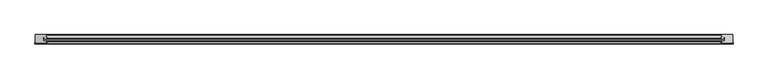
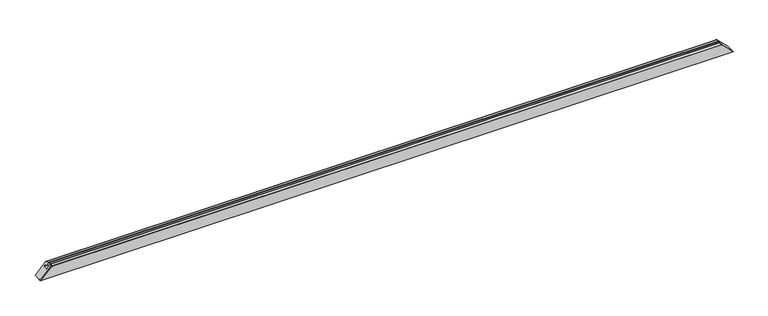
"""IFC4 building model written with IfcOpenShell, lengths in millimetres: proxy geometry, Weiku - Montante - Caixilho fixo 02.2.01.005 : Weiku - Montante - Caixilho fixo 02.2.01.005."""

import ifcopenshell
import ifcopenshell.guid

model = None  # the IFC model being written
_history = None  # IfcOwnerHistory: only IFC2X3 demands one
_inside = {}  # id of a spatial element -> (the spatial element, [elements in it])
_under = {}  # id of a project, library or spatial element -> (it, [spatial elements below it])
_declared = {}  # id of a project -> (the project, [libraries it declares])
_typed = {}  # id of a type object -> (the type object, [elements of that type])
_made_of = {}  # id of a material, layer set ... -> (it, [elements and type objects made of it])


def new_model(schema):
    """Start an empty IFC model of exactly this schema.

    Asked for "IFC4X3", IfcOpenShell would pick the latest addendum, in which some entities
    have other attributes; the version numbers below select the first issue.
    IFC2X3 requires an IfcOwnerHistory on every rooted entity: one is made here for all.
    """
    global model, _history
    if schema == "IFC4X3":
        model = ifcopenshell.file(schema_version=(4, 3, 0, 0))
    else:
        model = ifcopenshell.file(schema=schema)
    _inside.clear()
    _under.clear()
    _declared.clear()
    _typed.clear()
    _made_of.clear()
    _history = None
    if model.schema == "IFC2X3":
        org = make("IfcOrganization", Name="unknown")
        user = make(
            "IfcPersonAndOrganization",
            ThePerson=make("IfcPerson", FamilyName="unknown"),
            TheOrganization=org,
        )
        app = make(
            "IfcApplication",
            ApplicationDeveloper=org,
            Version="unknown",
            ApplicationFullName="unknown",
            ApplicationIdentifier="unknown",
        )
        _history = make(
            "IfcOwnerHistory",
            OwningUser=user,
            OwningApplication=app,
            ChangeAction="ADDED",
            CreationDate=0,
        )
    return model


def make(cls, **values):
    """One entity of the class cls with the attributes given. An attribute that is None is left unset."""
    return model.create_entity(
        cls, **{name: value for name, value in values.items() if value is not None}
    )


def rooted(cls, **values):
    """An entity with a GlobalId (a new one), such as an element, a storey or a relation."""
    return make(cls, GlobalId=ifcopenshell.guid.new(), OwnerHistory=_history, **values)


def si_unit(unit_type, name, prefix=None):
    """IfcSIUnit, for example si_unit("LENGTHUNIT", "METRE", prefix="MILLI")."""
    return make("IfcSIUnit", UnitType=unit_type, Prefix=prefix, Name=name)


def assignment(units):
    """IfcUnitAssignment: the units of a project."""
    return None if units is None else make("IfcUnitAssignment", Units=units)


def point(xyz):
    """IfcCartesianPoint."""
    return None if xyz is None else make("IfcCartesianPoint", Coordinates=xyz)


def direction(xyz):
    """IfcDirection."""
    return None if xyz is None else make("IfcDirection", DirectionRatios=xyz)


def frame(location, z_axis=None, x_axis=None):
    """IfcAxis2Placement3D, a coordinate frame: its origin and axes. An axis left out is left unset."""
    return make(
        "IfcAxis2Placement3D",
        Location=point(location),
        Axis=direction(z_axis),
        RefDirection=direction(x_axis),
    )


def origin():
    """The frame at (0, 0, 0) with its axes left unset."""
    return frame((0.0, 0.0, 0.0))


def place(relative_to, where):
    """IfcLocalPlacement: puts the frame where relative to a parent placement (None: the world)."""
    return make(
        "IfcLocalPlacement", PlacementRelTo=relative_to, RelativePlacement=where
    )


def context(
    kind, dimensions, precision=None, world=None, true_north=None, identifier=None
):
    """IfcGeometricRepresentationContext, for example the 3D "Model" context."""
    return make(
        "IfcGeometricRepresentationContext",
        ContextIdentifier=identifier,
        ContextType=kind,
        CoordinateSpaceDimension=dimensions,
        Precision=precision,
        WorldCoordinateSystem=world,
        TrueNorth=true_north,
    )


def project(units=None, contexts=None):
    """IfcProject with its units and contexts."""
    return rooted(
        "IfcProject",
        Name="project",
        RepresentationContexts=contexts,
        UnitsInContext=assignment(units),
    )


def spatial(cls, under=None, at=None, **own):
    """A site, building, storey or space (cls), placed at a placement, below another one or the project."""
    s = rooted(cls, ObjectPlacement=at, **own)
    if under is not None:
        _under.setdefault(under.id(), (under, []))[1].append(s)
    return s


def polyline(points):
    """IfcPolyline through the points."""
    return make("IfcPolyline", Points=[point(p) for p in points])


def ellipse_curve(where, semi_axis1, semi_axis2):
    """IfcEllipse in the frame where."""
    return make(
        "IfcEllipse", Position=where, SemiAxis1=semi_axis1, SemiAxis2=semi_axis2
    )


def shape(context_of_items, identifier, shape_type, items):
    """IfcShapeRepresentation: the items that make up one representation, for example the "Body"."""
    return make(
        "IfcShapeRepresentation",
        ContextOfItems=context_of_items,
        RepresentationIdentifier=identifier,
        RepresentationType=shape_type,
        Items=items,
    )


def source(mapping_origin, context_of_items, identifier, shape_type, items):
    """IfcRepresentationMap: a shape defined once, which mapped items show again and again."""
    return make(
        "IfcRepresentationMap",
        MappingOrigin=mapping_origin,
        MappedRepresentation=shape(context_of_items, identifier, shape_type, items),
    )


def transform(
    local_origin,
    x_axis=None,
    y_axis=None,
    z_axis=None,
    scale=None,
    scale2=None,
    scale3=None,
    uniform=True,
):
    """IfcCartesianTransformationOperator3D, or its non-uniform kind. x_axis, y_axis, z_axis: its Axis1, 2, 3."""
    if uniform:
        return make(
            "IfcCartesianTransformationOperator3D",
            Axis1=direction(x_axis),
            Axis2=direction(y_axis),
            LocalOrigin=point(local_origin),
            Scale=scale,
            Axis3=direction(z_axis),
        )
    return make(
        "IfcCartesianTransformationOperator3DnonUniform",
        Axis1=direction(x_axis),
        Axis2=direction(y_axis),
        LocalOrigin=point(local_origin),
        Scale=scale,
        Axis3=direction(z_axis),
        Scale2=scale2,
        Scale3=scale3,
    )


def mapped(mapping_source, mapping_target):
    """IfcMappedItem: shows the shape of a source again, moved by a transform."""
    return make(
        "IfcMappedItem", MappingSource=mapping_source, MappingTarget=mapping_target
    )


def made_of(thing, what):
    """Note that an element or type object is made of a material, layer set ...; save() writes the relation."""
    if what is not None:
        _made_of.setdefault(what.id(), (what, []))[1].append(thing)
    return thing


def element(
    cls,
    number,
    at=None,
    inside=None,
    cuts=None,
    type_object=None,
    material=None,
    context=None,
    identifier="Body",
    shape_type=None,
    held_by="IfcProductDefinitionShape",
    body=None,
    shapes=None,
    **own,
):
    """One element of the class cls, such as IfcWall. Its Tag is "e" and its number.

    at: its placement. inside: the storey or other place that contains it. cuts: it is an
    opening in that element (IfcRelVoidsElement). A single representation is given by context,
    identifier, shape_type and body (its items); several are given by shapes. held_by: the class
    of the entity that holds the representations. save() writes the other relations.
    """
    e = rooted(cls, Tag="e%d" % number, ObjectPlacement=at, **own)
    if body is not None:
        shapes = [shape(context, identifier, shape_type, body)]
    if shapes is not None:
        e.Representation = make(held_by, Representations=shapes)
    if inside is not None:
        _inside.setdefault(inside.id(), (inside, []))[1].append(e)
    if cuts is not None:
        rooted(
            "IfcRelVoidsElement", RelatingBuildingElement=cuts, RelatedOpeningElement=e
        )
    if type_object is not None:
        _typed.setdefault(type_object.id(), (type_object, []))[1].append(e)
    return made_of(e, material)


def aggregate(whole, parts):
    """IfcRelAggregates: a whole, such as a stair, and the parts it consists of."""
    return rooted("IfcRelAggregates", RelatingObject=whole, RelatedObjects=parts)


def save(model, path):
    """Write the relations noted so far, then the file.

    IfcRelAggregates (storeys below a building ...), IfcRelContainedInSpatialStructure (elements
    in a storey), IfcRelDefinesByType, IfcRelAssociatesMaterial and IfcRelDeclares: one each for
    every whole, place, type object, material and project.
    """
    for whole, parts in _under.values():
        aggregate(whole, parts)
    for where, things in _inside.values():
        rooted(
            "IfcRelContainedInSpatialStructure",
            RelatedElements=things,
            RelatingStructure=where,
        )
    for kind, things in _typed.values():
        rooted("IfcRelDefinesByType", RelatedObjects=things, RelatingType=kind)
    for what, things in _made_of.values():
        rooted("IfcRelAssociatesMaterial", RelatedObjects=things, RelatingMaterial=what)
    for by, libraries in _declared.values():
        rooted("IfcRelDeclares", RelatingContext=by, RelatedDefinitions=libraries)
    model.write(path)


def plane_surface(at):
    """IfcPlane: the flat surface through the origin of the frame at, square to its z axis."""
    return make("IfcPlane", Position=at)


def cylinder_surface(at, radius):
    """IfcCylindricalSurface: all points at the distance radius from the z axis of the frame at."""
    return make("IfcCylindricalSurface", Position=at, Radius=radius)


def revolved_surface(curve, axis_point, axis_direction):
    """IfcSurfaceOfRevolution: the curve turned about the line through axis_point along axis_direction."""
    return make(
        "IfcSurfaceOfRevolution",
        SweptCurve=make("IfcArbitraryOpenProfileDef", ProfileType="CURVE", Curve=curve),
        AxisPosition=make("IfcAxis1Placement", Location=point(axis_point), Axis=direction(axis_direction)),
    )


def advanced_brep(points, edges, surfaces, faces):
    """IfcAdvancedBrep: a solid bounded by faces that lie on surfaces and meet in shared edges.

    An edge is (start, end): straight between two places in points (the first is 0);
    or (start, end, curve); or (start, end, curve, False) where it runs against its curve.
    A face is (place in surfaces, loops), or (place, loops, False) where it looks against
    its surface's normal. A loop lists edges by number (the first is 1), with a minus sign
    where the edge is run from its end to its start. The first loop is the outer one.
    """
    corners = [point(p) for p in points]
    vertices = [make("IfcVertexPoint", VertexGeometry=c) for c in corners]
    made = []
    for start, end, *more in edges:
        made.append(
            make(
                "IfcEdgeCurve",
                EdgeStart=vertices[start],
                EdgeEnd=vertices[end],
                EdgeGeometry=more[0] if more else make("IfcPolyline", Points=[corners[start], corners[end]]),
                SameSense=more[1] if len(more) > 1 else True,
            )
        )
    hull = []
    for where, loops, *sense in faces:
        bounds = []
        for j, loop in enumerate(loops):
            ring = [make("IfcOrientedEdge", EdgeElement=made[abs(k) - 1], Orientation=k > 0) for k in loop]
            bounds.append(
                make(
                    "IfcFaceOuterBound" if j == 0 else "IfcFaceBound",
                    Bound=make("IfcEdgeLoop", EdgeList=ring),
                    Orientation=True,
                )
            )
        hull.append(make("IfcAdvancedFace", Bounds=bounds, FaceSurface=surfaces[where], SameSense=sense[0] if sense else True))
    return make("IfcAdvancedBrep", Outer=make("IfcClosedShell", CfsFaces=hull))


def generic_models_34b34451(model_context):
    return source(origin(), model_context, "Body", "AdvancedBrep", [
        advanced_brep(
        [(1998.0, -43.5137905, -1.0), (1997.0, -43.5137905, 0.0), (1997.0, -50.0, 0.0), (1935.4997332, -50.0, 61.5002668), (1932.6019557, -47.7764571, 64.3980443), (1930.118227, -38.5070552, 66.881773), (1930.8909676, -37.5, 66.1090324), (1930.8909676, -35.5, 66.1090324), (1928.1863753, -39.0246933, 68.8136247), (1932.0003978, -53.258819, 64.9996022), (1932.9663236, -54.0, 64.0336764), (1998.0, -54.0, -1.0), (-1998.0, -54.0, -1.0), (-1932.9663236, -54.0, 64.0336764), (-1932.0003978, -53.258819, 64.9996022), (-1928.1863753, -39.0246933, 68.8136247), (-1930.8909676, -35.5, 66.1090324), (-1930.8909676, -37.5, 66.1090324), (-1930.118227, -38.5070552, 66.881773), (-1932.6019557, -47.7764571, 64.3980443), (-1935.4997332, -50.0, 61.5002668), (-1997.0, -50.0, 0.0), (-1997.0, -43.5137905, 0.0), (-1998.0, -43.5137905, -1.0)],
        [
            (0, 1),
            (1, 2),
            (2, 3),
            (3, 4, ellipse_curve(frame((1935.4997332, -47.0, 61.5002668), z_axis=(-0.7071067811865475, 0.0, -0.7071067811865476), x_axis=(0.7071067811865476, 0.0, -0.7071067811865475)), 4.2426407, 3.0)),
            (4, 5),
            (5, 6, ellipse_curve(frame((1930.8909676, -38.3, 66.1090324), z_axis=(-0.7071067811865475, 0.0, -0.7071067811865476), x_axis=(0.7071067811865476, 0.0, -0.7071067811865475)), 1.1313708, 0.8)),
            (6, 7),
            (7, 8, ellipse_curve(frame((1930.8909676, -38.3, 66.1090324), z_axis=(0.7071067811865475, 0.0, 0.7071067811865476), x_axis=(-0.7071067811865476, 0.0, 0.7071067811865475)), 3.959798, 2.8)),
            (8, 9),
            (9, 10, ellipse_curve(frame((1932.9663236, -53.0, 64.0336764), z_axis=(0.7071067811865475, 0.0, 0.7071067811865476), x_axis=(-0.7071067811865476, 0.0, 0.7071067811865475)), 1.4142136, 1.0)),
            (10, 11),
            (11, 0),
            (12, 13),
            (13, 14, ellipse_curve(frame((-1932.9663236, -53.0, 64.0336764), z_axis=(-0.7071067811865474, 0.0, 0.7071067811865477), x_axis=(-0.7071067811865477, 0.0, -0.7071067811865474)), 1.4142136, 1.0)),
            (14, 15),
            (15, 16, ellipse_curve(frame((-1930.8909676, -38.3, 66.1090324), z_axis=(-0.7071067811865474, 0.0, 0.7071067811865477), x_axis=(-0.7071067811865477, 0.0, -0.7071067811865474)), 3.959798, 2.8)),
            (16, 17),
            (17, 18, ellipse_curve(frame((-1930.8909676, -38.3, 66.1090324), z_axis=(0.7071067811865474, 0.0, -0.7071067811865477), x_axis=(0.7071067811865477, 0.0, 0.7071067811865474)), 1.1313708, 0.8)),
            (18, 19),
            (19, 20, ellipse_curve(frame((-1935.4997332, -47.0, 61.5002668), z_axis=(0.7071067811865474, 0.0, -0.7071067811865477), x_axis=(0.7071067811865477, 0.0, 0.7071067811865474)), 4.2426407, 3.0)),
            (20, 21),
            (21, 22),
            (22, 23),
            (23, 12),
            (11, 12),
            (23, 0),
            (22, 1),
            (21, 2),
            (20, 3),
            (19, 4),
            (18, 5),
            (17, 6),
            (16, 7),
            (15, 8),
            (14, 9),
            (13, 10),
        ],
        [
            plane_surface(frame((1927.0, 15.0, 70.0), z_axis=(0.7071067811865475, 0.0, 0.7071067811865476), x_axis=(0.0, -1.0, 0.0))),
            plane_surface(frame((-2067.0, 15.0, -70.0), z_axis=(-0.7071067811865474, 0.0, 0.7071067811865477), x_axis=(0.0, -1.0, 0.0))),
            plane_surface(frame((-1999.8284271, -54.0, -1.0), z_axis=(0.0, 0.0, -1.0), x_axis=(1.0, 0.0, 0.0))),
            plane_surface(frame((-1999.8284271, -43.5137905, -1.0), z_axis=(0.0, 1.0, 0.0), x_axis=(1.0, 0.0, 0.0))),
            plane_surface(frame((-1999.8284271, -43.5137905, 0.0), z_axis=(0.0, 0.0, 1.0), x_axis=(1.0, 0.0, 0.0))),
            plane_surface(frame((-1999.8284271, -50.0, 0.0), z_axis=(0.0, 1.0, 0.0), x_axis=(1.0, 0.0, 0.0))),
            revolved_surface(polyline([(1938.4997332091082, -44.0, 61.5002668), (-1938.4997332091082, -44.0, 61.5002668)]), (-1999.8284271, -47.0, 61.5002668), (1.0, 0.0, 0.0)),
            plane_surface(frame((-1999.8284271, -47.7764571, 64.3980443), z_axis=(0.0, 0.2588190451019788, -0.9659258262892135), x_axis=(1.0, 0.0, 0.0))),
            revolved_surface(polyline([(1931.6909675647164, -37.5, 66.1090324), (-1931.6909675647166, -37.5, 66.1090324)]), (-1999.8284271, -38.3, 66.1090324), (1.0, 0.0, 0.0)),
            plane_surface(frame((-1999.8284271, -37.5, 66.1090324), z_axis=(0.0, 0.0, -1.0), x_axis=(1.0, 0.0, 0.0))),
            cylinder_surface(frame((-1999.8284271, -38.3, 66.1090324), z_axis=(-1.0, 0.0, 0.0), x_axis=(0.0, 1.0, 0.0)), 2.8),
            plane_surface(frame((-1999.8284271, -39.0246933, 68.8136247), z_axis=(0.0, -0.25881904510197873, 0.9659258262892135), x_axis=(1.0, 0.0, 0.0))),
            cylinder_surface(frame((-1999.8284271, -53.0, 64.0336764), z_axis=(-1.0, 0.0, 0.0), x_axis=(0.0, 1.0, 0.0)), 1.0),
            plane_surface(frame((-1999.8284271, -54.0, 64.0336764), z_axis=(0.0, -1.0, 0.0), x_axis=(1.0, 0.0, 0.0))),
        ],
        [
            (0, [[1, 2, 3, 4, 5, 6, 7, 8, 9, 10, 11, 12]]),
            (1, [[13, 14, 15, 16, 17, 18, 19, 20, 21, 22, 23, 24]]),
            (2, [[25, -24, 26, -12]]),
            (3, [[-26, -23, 27, -1]]),
            (4, [[-27, -22, 28, -2]]),
            (5, [[-28, -21, 29, -3]]),
            (6, [[-29, -20, 30, -4]]),
            (7, [[-30, -19, 31, -5]]),
            (8, [[-31, -18, 32, -6]]),
            (9, [[-32, -17, 33, -7]]),
            (10, [[-33, -16, 34, -8]]),
            (11, [[-34, -15, 35, -9]]),
            (12, [[-35, -14, 36, -10]]),
            (13, [[-36, -13, -25, -11]]),
        ],
    ),
        advanced_brep(
        [(-1930.118227, -38.5070552, 66.881773), (-1930.8909676, -37.5, 66.1090324), (-1951.0, -37.5, 46.0), (-1951.0, -12.5, 46.0), (-1945.0009154, -12.5, 51.9990846), (-1945.0009154, -23.5, 51.9990846), (-1930.9865015, -23.5, 66.0134985), (-1929.9998537, -22.3371317, 67.0001463), (-1933.5489094, -0.8371317, 63.4510906), (-1934.5355572, 0.0, 62.4644428), (-1997.0, 0.0, 0.0), (-1997.0, -50.0, 0.0), (-1935.4997332, -50.0, 61.5002668), (-1932.6019557, -47.7764571, 64.3980443), (1932.6019557, -47.7764571, 64.3980443), (1935.4997332, -50.0, 61.5002668), (1997.0, -50.0, 0.0), (1997.0, 0.0, 0.0), (1934.5355572, 0.0, 62.4644428), (1933.5489094, -0.8371317, 63.4510906), (1929.9998537, -22.3371317, 67.0001463), (1930.9865015, -23.5, 66.0134985), (1945.0009154, -23.5, 51.9990846), (1945.0009154, -12.5, 51.9990846), (1951.0, -12.5, 46.0), (1951.0, -37.5, 46.0), (1930.8909676, -37.5, 66.1090324), (1930.118227, -38.5070552, 66.881773)],
        [
            (0, 1, ellipse_curve(frame((-1930.8909676, -38.3, 66.1090324), z_axis=(-0.7071067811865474, 0.0, 0.7071067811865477), x_axis=(-0.7071067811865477, 0.0, -0.7071067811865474)), 1.1313708, 0.8)),
            (1, 2),
            (2, 3),
            (3, 4),
            (4, 5),
            (5, 6),
            (6, 7, ellipse_curve(frame((-1930.9865015, -22.5, 66.0134985), z_axis=(-0.7071067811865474, 0.0, 0.7071067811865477), x_axis=(-0.7071067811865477, 0.0, -0.7071067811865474)), 1.4142136, 1.0)),
            (7, 8),
            (8, 9, ellipse_curve(frame((-1934.5355572, -1.0, 62.4644428), z_axis=(-0.7071067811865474, 0.0, 0.7071067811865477), x_axis=(-0.7071067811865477, 0.0, -0.7071067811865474)), 1.4142136, 1.0)),
            (9, 10),
            (10, 11),
            (11, 12),
            (12, 13, ellipse_curve(frame((-1935.4997332, -47.0, 61.5002668), z_axis=(-0.7071067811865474, 0.0, 0.7071067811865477), x_axis=(-0.7071067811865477, 0.0, -0.7071067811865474)), 4.2426407, 3.0)),
            (13, 0),
            (14, 15, ellipse_curve(frame((1935.4997332, -47.0, 61.5002668), z_axis=(0.7071067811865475, 0.0, 0.7071067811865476), x_axis=(-0.7071067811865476, 0.0, 0.7071067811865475)), 4.2426407, 3.0)),
            (15, 16),
            (16, 17),
            (17, 18),
            (18, 19, ellipse_curve(frame((1934.5355572, -1.0, 62.4644428), z_axis=(0.7071067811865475, 0.0, 0.7071067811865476), x_axis=(-0.7071067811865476, 0.0, 0.7071067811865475)), 1.4142136, 1.0)),
            (19, 20),
            (20, 21, ellipse_curve(frame((1930.9865015, -22.5, 66.0134985), z_axis=(0.7071067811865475, 0.0, 0.7071067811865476), x_axis=(-0.7071067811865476, 0.0, 0.7071067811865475)), 1.4142136, 1.0)),
            (21, 22),
            (22, 23),
            (23, 24),
            (24, 25),
            (25, 26),
            (26, 27, ellipse_curve(frame((1930.8909676, -38.3, 66.1090324), z_axis=(0.7071067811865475, 0.0, 0.7071067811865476), x_axis=(-0.7071067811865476, 0.0, 0.7071067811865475)), 1.1313708, 0.8)),
            (27, 14),
            (13, 14),
            (27, 0),
            (12, 15),
            (11, 16),
            (10, 17),
            (9, 18),
            (8, 19),
            (7, 20),
            (6, 21),
            (5, 22),
            (4, 23),
            (3, 24),
            (2, 25),
            (1, 26),
        ],
        [
            plane_surface(frame((-2067.0, 15.0, -70.0), z_axis=(-0.7071067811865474, 0.0, 0.7071067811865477), x_axis=(0.0, -1.0, 0.0))),
            plane_surface(frame((1927.0, 15.0, 70.0), z_axis=(0.7071067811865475, 0.0, 0.7071067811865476), x_axis=(0.0, -1.0, 0.0))),
            plane_surface(frame((-1997.0, -38.5070552, 66.881773), z_axis=(0.0, -0.2588190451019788, 0.9659258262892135), x_axis=(1.0, 0.0, 0.0))),
            cylinder_surface(frame((-1997.0, -47.0, 61.5002668), z_axis=(-1.0, 0.0, 0.0), x_axis=(0.0, 1.0, 0.0)), 3.0),
            plane_surface(frame((-1997.0, -50.0, 61.5002668), z_axis=(0.0, -1.0, 0.0), x_axis=(1.0, 0.0, 0.0))),
            plane_surface(frame((-1997.0, -50.0, 0.0), z_axis=(0.0, 0.0, -1.0), x_axis=(1.0, 0.0, 0.0))),
            plane_surface(frame((-1997.0, 0.0, 0.0), z_axis=(0.0, 1.0, 0.0), x_axis=(1.0, 0.0, 0.0))),
            cylinder_surface(frame((-1997.0, -1.0, 62.4644428), z_axis=(-1.0, 0.0, 0.0), x_axis=(0.0, -1.0, 0.0)), 1.0),
            plane_surface(frame((-1997.0, -0.8371317, 63.4510906), z_axis=(0.0, 0.16286828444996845, 0.9866478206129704), x_axis=(1.0, 0.0, 0.0))),
            cylinder_surface(frame((-1997.0, -22.5, 66.0134985), z_axis=(-1.0, 0.0, 0.0), x_axis=(0.0, -1.0, 0.0)), 1.0),
            plane_surface(frame((-1997.0, -23.5, 66.0134985), z_axis=(0.0, -1.0, 0.0), x_axis=(1.0, 0.0, 0.0))),
            plane_surface(frame((-1997.0, -23.5, 51.9990846), z_axis=(0.0, 0.0, -1.0), x_axis=(1.0, 0.0, 0.0))),
            plane_surface(frame((-1997.0, -12.5, 51.9990846), z_axis=(0.0, -1.0, 0.0), x_axis=(1.0, 0.0, 0.0))),
            plane_surface(frame((-1997.0, -12.5, 46.0), z_axis=(0.0, 0.0, 1.0), x_axis=(1.0, 0.0, 0.0))),
            plane_surface(frame((-1997.0, -37.5, 46.0), z_axis=(0.0, 1.0, 0.0), x_axis=(1.0, 0.0, 0.0))),
            cylinder_surface(frame((-1997.0, -38.3, 66.1090324), z_axis=(-1.0, 0.0, 0.0), x_axis=(0.0, 1.0, 0.0)), 0.8),
        ],
        [
            (0, [[1, 2, 3, 4, 5, 6, 7, 8, 9, 10, 11, 12, 13, 14]]),
            (1, [[15, 16, 17, 18, 19, 20, 21, 22, 23, 24, 25, 26, 27, 28]]),
            (2, [[29, -28, 30, -14]]),
            (3, [[31, -15, -29, -13]]),
            (4, [[-16, -31, -12, 32]]),
            (5, [[-11, 33, -17, -32]]),
            (6, [[-10, 34, -18, -33]]),
            (7, [[35, -19, -34, -9]]),
            (8, [[36, -20, -35, -8]]),
            (9, [[37, -21, -36, -7]]),
            (10, [[38, -22, -37, -6]]),
            (11, [[39, -23, -38, -5]]),
            (12, [[40, -24, -39, -4]]),
            (13, [[41, -25, -40, -3]]),
            (14, [[42, -26, -41, -2]]),
            (15, [[-30, -27, -42, -1]]),
        ],
    ),
    ])


if __name__ == "__main__":
    model = new_model("IFC4")
    model_context = context("Model", 3, world=origin())
    ifc_project = project(units=[si_unit("LENGTHUNIT", "METRE", prefix="MILLI")], contexts=[model_context])
    site = spatial("IfcSite", under=ifc_project)
    building = spatial("IfcBuilding", under=site)
    placement = place(None, origin())
    generic_models_shape = generic_models_34b34451(model_context)
    element("IfcBuildingElementProxy", 1, Name="Weiku - Montante - Caixilho fixo 02.2.01.005 : Weiku - Montante - Caixilho fixo 02.2.01.005", ObjectType="Weiku - Montante - Caixilho fixo 02.2.01.005 : Weiku - Montante - Caixilho fixo 02.2.01.005", at=placement, inside=building, context=model_context, shape_type="MappedRepresentation", body=[
        mapped(generic_models_shape, transform((0.0, 0.0, 0.0), x_axis=(1.0, 0.0, 0.0), y_axis=(0.0, 1.0, 0.0), z_axis=(0.0, 0.0, 1.0))),
    ])
    save(model, "model.ifc")
